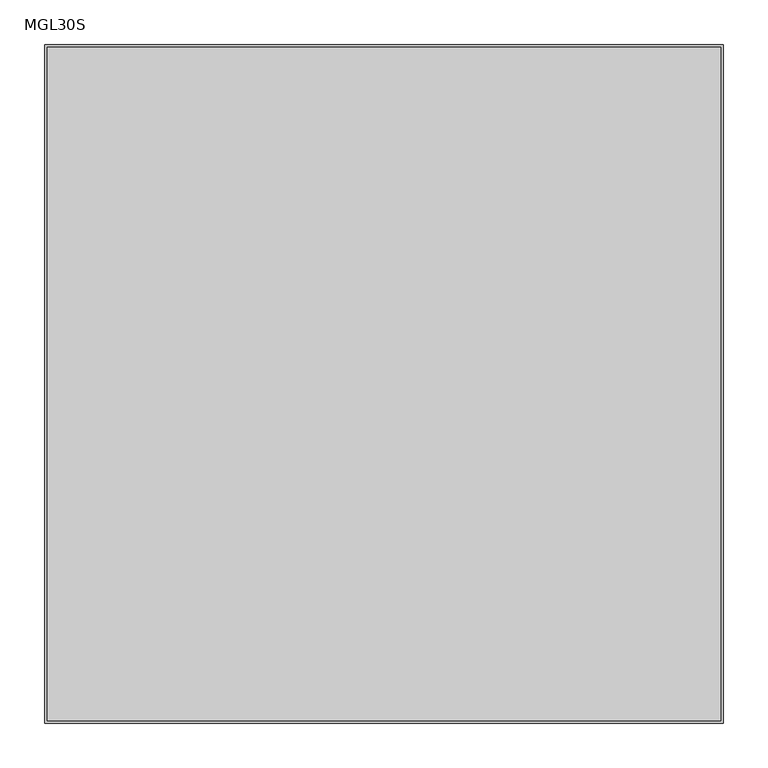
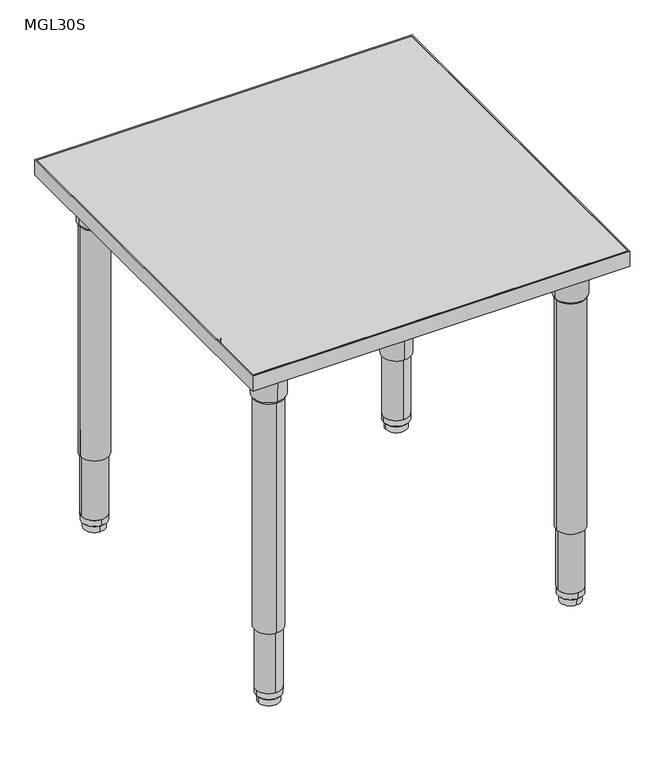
"""IFC4 building model written with IfcOpenShell, lengths in millimetres: furniture geometry, ERG-Mingle-Table-Square : MGL30S."""

from ifc_helpers import new_model, si_unit, point, frame, frame_2d, origin, place, context, project, spatial, polyline, circle_curve, trimmed, segment, composite_curve, outline, extrude, source, transform, mapped, element, save
from ifc_brep_helpers import plane_surface, cylinder_surface, revolved_surface, advanced_brep


def mgl30s_412d6b17(model_context):
    return source(origin(), model_context, "Body", "SolidModel", [
        advanced_brep(
        [(274.7646842, -304.8, 650.5933069), (334.8353158, -304.8, 650.5933069), (304.8, -304.8, 650.5933069), (272.656117, -304.8, 654.3580481), (336.943883, -304.8, 654.3580481), (271.7206351, -304.8, 707.7631458), (337.8793649, -304.8, 707.7631458), (268.271083, -304.8, 714.1198315), (341.328917, -304.8, 714.1198315), (268.271083, -304.8, 726.8198315), (341.328917, -304.8, 726.8198315), (304.8, -304.8, 726.8198315)],
        [
            (0, 1, circle_curve(frame((304.8, -304.8, 650.5933069), z_axis=(0.0, 0.0, -1.0), x_axis=(1.0, 0.0, 0.0)), 30.0353158)),
            (1, 2),
            (2, 0),
            (1, 0, circle_curve(frame((304.8, -304.8, 650.5933069), z_axis=(0.0, 0.0, -1.0), x_axis=(1.0, 0.0, 0.0)), 30.0353158)),
            (3, 4, circle_curve(frame((304.8, -304.8, 654.3580481), z_axis=(0.0, 0.0, -1.0), x_axis=(1.0, 0.0, 0.0)), 32.143883)),
            (4, 1),
            (0, 3),
            (4, 3, circle_curve(frame((304.8, -304.8, 654.3580481), z_axis=(0.0, 0.0, -1.0), x_axis=(1.0, 0.0, 0.0)), 32.143883)),
            (5, 6, circle_curve(frame((304.8, -304.8, 707.7631458), z_axis=(0.0, 0.0, -1.0), x_axis=(1.0, 0.0, 0.0)), 33.0793649)),
            (6, 4),
            (3, 5),
            (6, 5, circle_curve(frame((304.8, -304.8, 707.7631458), z_axis=(0.0, 0.0, -1.0), x_axis=(1.0, 0.0, 0.0)), 33.0793649)),
            (7, 8, circle_curve(frame((304.8, -304.8, 714.1198315), z_axis=(0.0, 0.0, -1.0), x_axis=(1.0, 0.0, 0.0)), 36.528917)),
            (8, 6),
            (5, 7),
            (8, 7, circle_curve(frame((304.8, -304.8, 714.1198315), z_axis=(0.0, 0.0, -1.0), x_axis=(1.0, 0.0, 0.0)), 36.528917)),
            (9, 10, circle_curve(frame((304.8, -304.8, 726.8198315), z_axis=(0.0, 0.0, -1.0), x_axis=(1.0, 0.0, 0.0)), 36.528917)),
            (10, 8),
            (7, 9),
            (10, 9, circle_curve(frame((304.8, -304.8, 726.8198315), z_axis=(0.0, 0.0, -1.0), x_axis=(1.0, 0.0, 0.0)), 36.528917)),
            (11, 10),
            (9, 11),
        ],
        [
            plane_surface(frame((304.8, -304.8, 650.5933069), z_axis=(0.0, 0.0, -1.0), x_axis=(1.0, 0.0, 0.0))),
            revolved_surface(polyline([(334.8353158, -304.8, 650.5933069), (336.943883, -304.8, 654.3580481)]), (304.8, -304.8, 726.8198315), (0.0, 0.0, 1.0)),
            revolved_surface(polyline([(336.943883, -304.8, 654.3580481), (337.8793649, -304.8, 707.7631458)]), (304.8, -304.8, 726.8198315), (0.0, 0.0, 1.0)),
            revolved_surface(polyline([(337.8793649, -304.8, 707.7631458), (341.328917, -304.8, 714.1198315)]), (304.8, -304.8, 726.8198315), (0.0, 0.0, 1.0)),
            cylinder_surface(frame((304.8, -304.8, 726.8198315), z_axis=(0.0, 0.0, 1.0), x_axis=(1.0, 0.0, 0.0)), 36.528917),
            plane_surface(frame((304.8, -304.8, 726.8198315), z_axis=(0.0, 0.0, 1.0), x_axis=(1.0, 0.0, 0.0))),
        ],
        [
            (0, [[1, 2, 3]]),
            (0, [[4, -3, -2]]),
            (1, [[5, 6, -1, 7]]),
            (1, [[8, -7, -4, -6]]),
            (2, [[9, 10, -5, 11]]),
            (2, [[12, -11, -8, -10]]),
            (3, [[13, 14, -9, 15]]),
            (3, [[16, -15, -12, -14]]),
            (4, [[17, 18, -13, 19]]),
            (4, [[20, -19, -16, -18]]),
            (5, [[21, -17, 22]]),
            (5, [[-22, -20, -21]]),
        ],
    ),
        extrude(outline(composite_curve([segment(polyline([(350.673768, -222.2223426), (350.673768, -335.9483754)]), True, "CONTINUOUS"), segment(trimmed(circle_curve(frame_2d((334.798768, -335.9483754)), 15.875), [point((350.673768, -335.9483754))], [point((334.798768, -351.8233754))], False, "CARTESIAN"), True, "CONTINUOUS"), segment(polyline([(334.798768, -351.8233754), (221.0864205, -351.8233754)]), True, "CONTINUOUS"), segment(trimmed(circle_curve(frame_2d((221.0864205, -339.1233754)), 12.7), [point((221.0864205, -351.8233754))], [point((208.4491923, -337.8622394))], False, "CARTESIAN"), True, "CONTINUOUS"), segment(trimmed(circle_curve(frame_2d((350.9486077, -352.0830117)), 143.2072406), [point((208.4491923, -337.8622394))], [point((336.7111525, -209.5852622))], False, "CARTESIAN"), True, "CONTINUOUS"), segment(trimmed(circle_curve(frame_2d((337.973768, -222.2223426)), 12.7), [point((336.7111525, -209.5852622))], [point((350.673768, -222.2223426))], False, "CARTESIAN"), True, "CONTINUOUS")], self_intersect=False)), frame((0.0, 0.0, 726.8198315), z_axis=(0.0, 0.0, 1.0), x_axis=(1.0, 0.0, 0.0)), (0.0, 0.0, 1.0), 3.4301685),
        extrude(outline(composite_curve([segment(trimmed(circle_curve(frame_2d((304.8, -304.8)), 28.575), [point((333.375, -304.8))], [point((276.225, -304.8))], False, "CARTESIAN"), True, "CONTINUOUS"), segment(trimmed(circle_curve(frame_2d((304.8, -304.8)), 28.575), [point((276.225, -304.8))], [point((333.375, -304.8))], False, "CARTESIAN"), True, "CONTINUOUS")], self_intersect=False)), frame((0.0, 0.0, 158.3876979), z_axis=(0.0, 0.0, 1.0), x_axis=(1.0, 0.0, 0.0)), (0.0, 0.0, 1.0), 495.4089866),
        extrude(outline(composite_curve([segment(trimmed(circle_curve(frame_2d((304.8, -304.8)), 25.4), [point((330.2, -304.8))], [point((279.4, -304.8))], False, "CARTESIAN"), True, "CONTINUOUS"), segment(trimmed(circle_curve(frame_2d((304.8, -304.8)), 25.4), [point((279.4, -304.8))], [point((330.2, -304.8))], False, "CARTESIAN"), True, "CONTINUOUS")], self_intersect=False)), frame((0.0, 0.0, 28.9580435), z_axis=(0.0, 0.0, 1.0), x_axis=(1.0, 0.0, 0.0)), (0.0, 0.0, 1.0), 176.7049119),
        advanced_brep(
        [(304.8, -279.5649896, 28.9580185), (304.8, -330.0350104, 28.9580185), (304.8, -304.8, 28.9580185), (304.8, -279.700761, 16.3032949), (304.8, -329.899239, 16.3032949), (304.8, -281.2160619, 14.7291007), (304.8, -328.3839381, 14.7291007), (304.8, -283.6591422, 14.7291007), (304.8, -325.9408578, 14.7291007), (304.8, -283.8521336, 0.0), (304.8, -325.7478664, 0.0), (304.8, -304.8, 0.0)],
        [
            (0, 1, circle_curve(frame((304.8, -304.8, 28.9580185), z_axis=(0.0, 0.0, 1.0), x_axis=(0.0, -1.0, 0.0)), 25.2350104)),
            (1, 2),
            (2, 0),
            (1, 0, circle_curve(frame((304.8, -304.8, 28.9580185), z_axis=(0.0, 0.0, 1.0), x_axis=(0.0, -1.0, 0.0)), 25.2350104)),
            (3, 4, circle_curve(frame((304.8, -304.8, 16.3032949), z_axis=(0.0, 0.0, 1.0), x_axis=(0.0, -1.0, 0.0)), 25.099239)),
            (4, 1),
            (0, 3),
            (4, 3, circle_curve(frame((304.8, -304.8, 16.3032949), z_axis=(0.0, 0.0, 1.0), x_axis=(0.0, -1.0, 0.0)), 25.099239)),
            (5, 6, circle_curve(frame((304.8, -304.8, 14.7291007), z_axis=(0.0, 0.0, 1.0), x_axis=(0.0, -1.0, 0.0)), 23.5839381)),
            (6, 4),
            (3, 5),
            (6, 5, circle_curve(frame((304.8, -304.8, 14.7291007), z_axis=(0.0, 0.0, 1.0), x_axis=(0.0, -1.0, 0.0)), 23.5839381)),
            (7, 8, circle_curve(frame((304.8, -304.8, 14.7291007), z_axis=(0.0, 0.0, 1.0), x_axis=(0.0, -1.0, 0.0)), 21.1408578)),
            (8, 6),
            (5, 7),
            (8, 7, circle_curve(frame((304.8, -304.8, 14.7291007), z_axis=(0.0, 0.0, 1.0), x_axis=(0.0, -1.0, 0.0)), 21.1408578)),
            (9, 10, circle_curve(frame((304.8, -304.8, 0.0), z_axis=(0.0, 0.0, 1.0), x_axis=(0.0, -1.0, 0.0)), 20.9478664)),
            (10, 8),
            (7, 9),
            (10, 9, circle_curve(frame((304.8, -304.8, 0.0), z_axis=(0.0, 0.0, 1.0), x_axis=(0.0, -1.0, 0.0)), 20.9478664)),
            (11, 10),
            (9, 11),
        ],
        [
            plane_surface(frame((304.8, -304.8, 28.9580185), z_axis=(0.0, 0.0, 1.0), x_axis=(0.0, -1.0, 0.0))),
            revolved_surface(polyline([(304.8, -330.0350104, 28.9580185), (304.8, -329.899239, 16.3032949)]), (304.8, -304.8, 0.0), (0.0, 0.0, -1.0)),
            revolved_surface(polyline([(304.8, -329.899239, 16.3032949), (304.8, -328.3839381, 14.7291007)]), (304.8, -304.8, 0.0), (0.0, 0.0, -1.0)),
            plane_surface(frame((304.8, -304.8, 14.7291007), z_axis=(0.0, 0.0, -1.0), x_axis=(0.0, -1.0, 0.0))),
            revolved_surface(polyline([(304.8, -325.9408578, 14.7291007), (304.8, -325.7478664, 0.0)]), (304.8, -304.8, 0.0), (0.0, 0.0, -1.0)),
            plane_surface(frame((304.8, -304.8, 0.0), z_axis=(0.0, 0.0, -1.0), x_axis=(0.0, -1.0, 0.0))),
        ],
        [
            (0, [[1, 2, 3]]),
            (0, [[4, -3, -2]]),
            (1, [[5, 6, -1, 7]]),
            (1, [[8, -7, -4, -6]]),
            (2, [[9, 10, -5, 11]]),
            (2, [[12, -11, -8, -10]]),
            (3, [[13, 14, -9, 15]]),
            (3, [[16, -15, -12, -14]]),
            (4, [[17, 18, -13, 19]]),
            (4, [[20, -19, -16, -18]]),
            (5, [[21, -17, 22]]),
            (5, [[-22, -20, -21]]),
        ],
    ),
        advanced_brep(
        [(-304.8, -274.7646842, 650.5933069), (-304.8, -334.8353158, 650.5933069), (-304.8, -304.8, 650.5933069), (-304.8, -272.656117, 654.3580481), (-304.8, -336.943883, 654.3580481), (-304.8, -271.7206351, 707.7631458), (-304.8, -337.8793649, 707.7631458), (-304.8, -268.271083, 714.1198315), (-304.8, -341.328917, 714.1198315), (-304.8, -268.271083, 726.8198315), (-304.8, -341.328917, 726.8198315), (-304.8, -304.8, 726.8198315)],
        [
            (0, 1, circle_curve(frame((-304.8, -304.8, 650.5933069), z_axis=(0.0, 0.0, -1.0), x_axis=(0.0, -1.0, 0.0)), 30.0353158)),
            (1, 2),
            (2, 0),
            (1, 0, circle_curve(frame((-304.8, -304.8, 650.5933069), z_axis=(0.0, 0.0, -1.0), x_axis=(0.0, -1.0, 0.0)), 30.0353158)),
            (3, 4, circle_curve(frame((-304.8, -304.8, 654.3580481), z_axis=(0.0, 0.0, -1.0), x_axis=(0.0, -1.0, 0.0)), 32.143883)),
            (4, 1),
            (0, 3),
            (4, 3, circle_curve(frame((-304.8, -304.8, 654.3580481), z_axis=(0.0, 0.0, -1.0), x_axis=(0.0, -1.0, 0.0)), 32.143883)),
            (5, 6, circle_curve(frame((-304.8, -304.8, 707.7631458), z_axis=(0.0, 0.0, -1.0), x_axis=(0.0, -1.0, 0.0)), 33.0793649)),
            (6, 4),
            (3, 5),
            (6, 5, circle_curve(frame((-304.8, -304.8, 707.7631458), z_axis=(0.0, 0.0, -1.0), x_axis=(0.0, -1.0, 0.0)), 33.0793649)),
            (7, 8, circle_curve(frame((-304.8, -304.8, 714.1198315), z_axis=(0.0, 0.0, -1.0), x_axis=(0.0, -1.0, 0.0)), 36.528917)),
            (8, 6),
            (5, 7),
            (8, 7, circle_curve(frame((-304.8, -304.8, 714.1198315), z_axis=(0.0, 0.0, -1.0), x_axis=(0.0, -1.0, 0.0)), 36.528917)),
            (9, 10, circle_curve(frame((-304.8, -304.8, 726.8198315), z_axis=(0.0, 0.0, -1.0), x_axis=(0.0, -1.0, 0.0)), 36.528917)),
            (10, 8),
            (7, 9),
            (10, 9, circle_curve(frame((-304.8, -304.8, 726.8198315), z_axis=(0.0, 0.0, -1.0), x_axis=(0.0, -1.0, 0.0)), 36.528917)),
            (11, 10),
            (9, 11),
        ],
        [
            plane_surface(frame((-304.8, -304.8, 650.5933069), z_axis=(0.0, 0.0, -1.0), x_axis=(0.0, -1.0, 0.0))),
            revolved_surface(polyline([(-304.8, -334.8353158, 650.5933069), (-304.8, -336.943883, 654.3580481)]), (-304.8, -304.8, 726.8198315), (0.0, 0.0, 1.0)),
            revolved_surface(polyline([(-304.8, -336.943883, 654.3580481), (-304.8, -337.8793649, 707.7631458)]), (-304.8, -304.8, 726.8198315), (0.0, 0.0, 1.0)),
            revolved_surface(polyline([(-304.8, -337.8793649, 707.7631458), (-304.8, -341.328917, 714.1198315)]), (-304.8, -304.8, 726.8198315), (0.0, 0.0, 1.0)),
            cylinder_surface(frame((-304.8, -304.8, 726.8198315), z_axis=(0.0, 0.0, 1.0), x_axis=(0.0, -1.0, 0.0)), 36.528917),
            plane_surface(frame((-304.8, -304.8, 726.8198315), z_axis=(0.0, 0.0, 1.0), x_axis=(0.0, -1.0, 0.0))),
        ],
        [
            (0, [[1, 2, 3]]),
            (0, [[4, -3, -2]]),
            (1, [[5, 6, -1, 7]]),
            (1, [[8, -7, -4, -6]]),
            (2, [[9, 10, -5, 11]]),
            (2, [[12, -11, -8, -10]]),
            (3, [[13, 14, -9, 15]]),
            (3, [[16, -15, -12, -14]]),
            (4, [[17, 18, -13, 19]]),
            (4, [[20, -19, -16, -18]]),
            (5, [[21, -17, 22]]),
            (5, [[-22, -20, -21]]),
        ],
    ),
        extrude(outline(composite_curve([segment(polyline([(-222.2223426, -350.673768), (-335.9483754, -350.673768)]), True, "CONTINUOUS"), segment(trimmed(circle_curve(frame_2d((-335.9483754, -334.798768)), 15.875), [point((-335.9483754, -350.673768))], [point((-351.8233754, -334.798768))], False, "CARTESIAN"), True, "CONTINUOUS"), segment(polyline([(-351.8233754, -334.798768), (-351.8233754, -221.0864205)]), True, "CONTINUOUS"), segment(trimmed(circle_curve(frame_2d((-339.1233754, -221.0864205)), 12.7), [point((-351.8233754, -221.0864205))], [point((-337.8622394, -208.4491923))], False, "CARTESIAN"), True, "CONTINUOUS"), segment(trimmed(circle_curve(frame_2d((-352.0830117, -350.9486077)), 143.2072406), [point((-337.8622394, -208.4491923))], [point((-209.5852622, -336.7111525))], False, "CARTESIAN"), True, "CONTINUOUS"), segment(trimmed(circle_curve(frame_2d((-222.2223426, -337.973768)), 12.7), [point((-209.5852622, -336.7111525))], [point((-222.2223426, -350.673768))], False, "CARTESIAN"), True, "CONTINUOUS")], self_intersect=False)), frame((0.0, 0.0, 726.8198315), z_axis=(0.0, 0.0, 1.0), x_axis=(1.0, 0.0, 0.0)), (0.0, 0.0, 1.0), 3.4301685),
        extrude(outline(composite_curve([segment(trimmed(circle_curve(frame_2d((-304.8, -304.8)), 28.575), [point((-304.8, -333.375))], [point((-304.8, -276.225))], False, "CARTESIAN"), True, "CONTINUOUS"), segment(trimmed(circle_curve(frame_2d((-304.8, -304.8)), 28.575), [point((-304.8, -276.225))], [point((-304.8, -333.375))], False, "CARTESIAN"), True, "CONTINUOUS")], self_intersect=False)), frame((0.0, 0.0, 158.3876979), z_axis=(0.0, 0.0, 1.0), x_axis=(1.0, 0.0, 0.0)), (0.0, 0.0, 1.0), 495.4089866),
        extrude(outline(composite_curve([segment(trimmed(circle_curve(frame_2d((-304.8, -304.8)), 25.4), [point((-304.8, -330.2))], [point((-304.8, -279.4))], False, "CARTESIAN"), True, "CONTINUOUS"), segment(trimmed(circle_curve(frame_2d((-304.8, -304.8)), 25.4), [point((-304.8, -279.4))], [point((-304.8, -330.2))], False, "CARTESIAN"), True, "CONTINUOUS")], self_intersect=False)), frame((0.0, 0.0, 28.9580435), z_axis=(0.0, 0.0, 1.0), x_axis=(1.0, 0.0, 0.0)), (0.0, 0.0, 1.0), 176.7049119),
        advanced_brep(
        [(-279.5649896, -304.8, 28.9580185), (-330.0350104, -304.8, 28.9580185), (-304.8, -304.8, 28.9580185), (-279.700761, -304.8, 16.3032949), (-329.899239, -304.8, 16.3032949), (-281.2160619, -304.8, 14.7291007), (-328.3839381, -304.8, 14.7291007), (-283.6591422, -304.8, 14.7291007), (-325.9408578, -304.8, 14.7291007), (-283.8521336, -304.8, 0.0), (-325.7478664, -304.8, 0.0), (-304.8, -304.8, 0.0)],
        [
            (0, 1, circle_curve(frame((-304.8, -304.8, 28.9580185), z_axis=(0.0, 0.0, 1.0), x_axis=(-1.0, 0.0, 0.0)), 25.2350104)),
            (1, 2),
            (2, 0),
            (1, 0, circle_curve(frame((-304.8, -304.8, 28.9580185), z_axis=(0.0, 0.0, 1.0), x_axis=(-1.0, 0.0, 0.0)), 25.2350104)),
            (3, 4, circle_curve(frame((-304.8, -304.8, 16.3032949), z_axis=(0.0, 0.0, 1.0), x_axis=(-1.0, 0.0, 0.0)), 25.099239)),
            (4, 1),
            (0, 3),
            (4, 3, circle_curve(frame((-304.8, -304.8, 16.3032949), z_axis=(0.0, 0.0, 1.0), x_axis=(-1.0, 0.0, 0.0)), 25.099239)),
            (5, 6, circle_curve(frame((-304.8, -304.8, 14.7291007), z_axis=(0.0, 0.0, 1.0), x_axis=(-1.0, 0.0, 0.0)), 23.5839381)),
            (6, 4),
            (3, 5),
            (6, 5, circle_curve(frame((-304.8, -304.8, 14.7291007), z_axis=(0.0, 0.0, 1.0), x_axis=(-1.0, 0.0, 0.0)), 23.5839381)),
            (7, 8, circle_curve(frame((-304.8, -304.8, 14.7291007), z_axis=(0.0, 0.0, 1.0), x_axis=(-1.0, 0.0, 0.0)), 21.1408578)),
            (8, 6),
            (5, 7),
            (8, 7, circle_curve(frame((-304.8, -304.8, 14.7291007), z_axis=(0.0, 0.0, 1.0), x_axis=(-1.0, 0.0, 0.0)), 21.1408578)),
            (9, 10, circle_curve(frame((-304.8, -304.8, 0.0), z_axis=(0.0, 0.0, 1.0), x_axis=(-1.0, 0.0, 0.0)), 20.9478664)),
            (10, 8),
            (7, 9),
            (10, 9, circle_curve(frame((-304.8, -304.8, 0.0), z_axis=(0.0, 0.0, 1.0), x_axis=(-1.0, 0.0, 0.0)), 20.9478664)),
            (11, 10),
            (9, 11),
        ],
        [
            plane_surface(frame((-304.8, -304.8, 28.9580185), z_axis=(0.0, 0.0, 1.0), x_axis=(-1.0, 0.0, 0.0))),
            revolved_surface(polyline([(-330.0350104, -304.8, 28.9580185), (-329.899239, -304.8, 16.3032949)]), (-304.8, -304.8, 0.0), (0.0, 0.0, -1.0)),
            revolved_surface(polyline([(-329.899239, -304.8, 16.3032949), (-328.3839381, -304.8, 14.7291007)]), (-304.8, -304.8, 0.0), (0.0, 0.0, -1.0)),
            plane_surface(frame((-304.8, -304.8, 14.7291007), z_axis=(0.0, 0.0, -1.0), x_axis=(-1.0, 0.0, 0.0))),
            revolved_surface(polyline([(-325.9408578, -304.8, 14.7291007), (-325.7478664, -304.8, 0.0)]), (-304.8, -304.8, 0.0), (0.0, 0.0, -1.0)),
            plane_surface(frame((-304.8, -304.8, 0.0), z_axis=(0.0, 0.0, -1.0), x_axis=(-1.0, 0.0, 0.0))),
        ],
        [
            (0, [[1, 2, 3]]),
            (0, [[4, -3, -2]]),
            (1, [[5, 6, -1, 7]]),
            (1, [[8, -7, -4, -6]]),
            (2, [[9, 10, -5, 11]]),
            (2, [[12, -11, -8, -10]]),
            (3, [[13, 14, -9, 15]]),
            (3, [[16, -15, -12, -14]]),
            (4, [[17, 18, -13, 19]]),
            (4, [[20, -19, -16, -18]]),
            (5, [[21, -17, 22]]),
            (5, [[-22, -20, -21]]),
        ],
    ),
        advanced_brep(
        [(304.8, 274.7646842, 650.5933069), (304.8, 334.8353158, 650.5933069), (304.8, 304.8, 650.5933069), (304.8, 272.656117, 654.3580481), (304.8, 336.943883, 654.3580481), (304.8, 271.7206351, 707.7631458), (304.8, 337.8793649, 707.7631458), (304.8, 268.271083, 714.1198315), (304.8, 341.328917, 714.1198315), (304.8, 268.271083, 726.8198315), (304.8, 341.328917, 726.8198315), (304.8, 304.8, 726.8198315)],
        [
            (0, 1, circle_curve(frame((304.8, 304.8, 650.5933069), z_axis=(0.0, 0.0, -1.0), x_axis=(0.0, 1.0, 0.0)), 30.0353158)),
            (1, 2),
            (2, 0),
            (1, 0, circle_curve(frame((304.8, 304.8, 650.5933069), z_axis=(0.0, 0.0, -1.0), x_axis=(0.0, 1.0, 0.0)), 30.0353158)),
            (3, 4, circle_curve(frame((304.8, 304.8, 654.3580481), z_axis=(0.0, 0.0, -1.0), x_axis=(0.0, 1.0, 0.0)), 32.143883)),
            (4, 1),
            (0, 3),
            (4, 3, circle_curve(frame((304.8, 304.8, 654.3580481), z_axis=(0.0, 0.0, -1.0), x_axis=(0.0, 1.0, 0.0)), 32.143883)),
            (5, 6, circle_curve(frame((304.8, 304.8, 707.7631458), z_axis=(0.0, 0.0, -1.0), x_axis=(0.0, 1.0, 0.0)), 33.0793649)),
            (6, 4),
            (3, 5),
            (6, 5, circle_curve(frame((304.8, 304.8, 707.7631458), z_axis=(0.0, 0.0, -1.0), x_axis=(0.0, 1.0, 0.0)), 33.0793649)),
            (7, 8, circle_curve(frame((304.8, 304.8, 714.1198315), z_axis=(0.0, 0.0, -1.0), x_axis=(0.0, 1.0, 0.0)), 36.528917)),
            (8, 6),
            (5, 7),
            (8, 7, circle_curve(frame((304.8, 304.8, 714.1198315), z_axis=(0.0, 0.0, -1.0), x_axis=(0.0, 1.0, 0.0)), 36.528917)),
            (9, 10, circle_curve(frame((304.8, 304.8, 726.8198315), z_axis=(0.0, 0.0, -1.0), x_axis=(0.0, 1.0, 0.0)), 36.528917)),
            (10, 8),
            (7, 9),
            (10, 9, circle_curve(frame((304.8, 304.8, 726.8198315), z_axis=(0.0, 0.0, -1.0), x_axis=(0.0, 1.0, 0.0)), 36.528917)),
            (11, 10),
            (9, 11),
        ],
        [
            plane_surface(frame((304.8, 304.8, 650.5933069), z_axis=(0.0, 0.0, -1.0), x_axis=(0.0, 1.0, 0.0))),
            revolved_surface(polyline([(304.8, 334.8353158, 650.5933069), (304.8, 336.943883, 654.3580481)]), (304.8, 304.8, 726.8198315), (0.0, 0.0, 1.0)),
            revolved_surface(polyline([(304.8, 336.943883, 654.3580481), (304.8, 337.8793649, 707.7631458)]), (304.8, 304.8, 726.8198315), (0.0, 0.0, 1.0)),
            revolved_surface(polyline([(304.8, 337.8793649, 707.7631458), (304.8, 341.328917, 714.1198315)]), (304.8, 304.8, 726.8198315), (0.0, 0.0, 1.0)),
            cylinder_surface(frame((304.8, 304.8, 726.8198315), z_axis=(0.0, 0.0, 1.0), x_axis=(0.0, 1.0, 0.0)), 36.528917),
            plane_surface(frame((304.8, 304.8, 726.8198315), z_axis=(0.0, 0.0, 1.0), x_axis=(0.0, 1.0, 0.0))),
        ],
        [
            (0, [[1, 2, 3]]),
            (0, [[4, -3, -2]]),
            (1, [[5, 6, -1, 7]]),
            (1, [[8, -7, -4, -6]]),
            (2, [[9, 10, -5, 11]]),
            (2, [[12, -11, -8, -10]]),
            (3, [[13, 14, -9, 15]]),
            (3, [[16, -15, -12, -14]]),
            (4, [[17, 18, -13, 19]]),
            (4, [[20, -19, -16, -18]]),
            (5, [[21, -17, 22]]),
            (5, [[-22, -20, -21]]),
        ],
    ),
        extrude(outline(composite_curve([segment(polyline([(222.2223426, 350.673768), (335.9483754, 350.673768)]), True, "CONTINUOUS"), segment(trimmed(circle_curve(frame_2d((335.9483754, 334.798768)), 15.875), [point((335.9483754, 350.673768))], [point((351.8233754, 334.798768))], False, "CARTESIAN"), True, "CONTINUOUS"), segment(polyline([(351.8233754, 334.798768), (351.8233754, 221.0864205)]), True, "CONTINUOUS"), segment(trimmed(circle_curve(frame_2d((339.1233754, 221.0864205)), 12.7), [point((351.8233754, 221.0864205))], [point((337.8622394, 208.4491923))], False, "CARTESIAN"), True, "CONTINUOUS"), segment(trimmed(circle_curve(frame_2d((352.0830117, 350.9486077)), 143.2072406), [point((337.8622394, 208.4491923))], [point((209.5852622, 336.7111525))], False, "CARTESIAN"), True, "CONTINUOUS"), segment(trimmed(circle_curve(frame_2d((222.2223426, 337.973768)), 12.7), [point((209.5852622, 336.7111525))], [point((222.2223426, 350.673768))], False, "CARTESIAN"), True, "CONTINUOUS")], self_intersect=False)), frame((0.0, 0.0, 726.8198315), z_axis=(0.0, 0.0, 1.0), x_axis=(1.0, 0.0, 0.0)), (0.0, 0.0, 1.0), 3.4301685),
        extrude(outline(composite_curve([segment(trimmed(circle_curve(frame_2d((304.8, 304.8)), 28.575), [point((304.8, 333.375))], [point((304.8, 276.225))], False, "CARTESIAN"), True, "CONTINUOUS"), segment(trimmed(circle_curve(frame_2d((304.8, 304.8)), 28.575), [point((304.8, 276.225))], [point((304.8, 333.375))], False, "CARTESIAN"), True, "CONTINUOUS")], self_intersect=False)), frame((0.0, 0.0, 158.3876979), z_axis=(0.0, 0.0, 1.0), x_axis=(1.0, 0.0, 0.0)), (0.0, 0.0, 1.0), 495.4089866),
        extrude(outline(composite_curve([segment(trimmed(circle_curve(frame_2d((304.8, 304.8)), 25.4), [point((304.8, 330.2))], [point((304.8, 279.4))], False, "CARTESIAN"), True, "CONTINUOUS"), segment(trimmed(circle_curve(frame_2d((304.8, 304.8)), 25.4), [point((304.8, 279.4))], [point((304.8, 330.2))], False, "CARTESIAN"), True, "CONTINUOUS")], self_intersect=False)), frame((0.0, 0.0, 28.9580435), z_axis=(0.0, 0.0, 1.0), x_axis=(1.0, 0.0, 0.0)), (0.0, 0.0, 1.0), 176.7049119),
        advanced_brep(
        [(279.5649896, 304.8, 28.9580185), (330.0350104, 304.8, 28.9580185), (304.8, 304.8, 28.9580185), (279.700761, 304.8, 16.3032949), (329.899239, 304.8, 16.3032949), (281.2160619, 304.8, 14.7291007), (328.3839381, 304.8, 14.7291007), (283.6591422, 304.8, 14.7291007), (325.9408578, 304.8, 14.7291007), (283.8521336, 304.8, 0.0), (325.7478664, 304.8, 0.0), (304.8, 304.8, 0.0)],
        [
            (0, 1, circle_curve(frame((304.8, 304.8, 28.9580185), z_axis=(0.0, 0.0, 1.0), x_axis=(1.0, 0.0, 0.0)), 25.2350104)),
            (1, 2),
            (2, 0),
            (1, 0, circle_curve(frame((304.8, 304.8, 28.9580185), z_axis=(0.0, 0.0, 1.0), x_axis=(1.0, 0.0, 0.0)), 25.2350104)),
            (3, 4, circle_curve(frame((304.8, 304.8, 16.3032949), z_axis=(0.0, 0.0, 1.0), x_axis=(1.0, 0.0, 0.0)), 25.099239)),
            (4, 1),
            (0, 3),
            (4, 3, circle_curve(frame((304.8, 304.8, 16.3032949), z_axis=(0.0, 0.0, 1.0), x_axis=(1.0, 0.0, 0.0)), 25.099239)),
            (5, 6, circle_curve(frame((304.8, 304.8, 14.7291007), z_axis=(0.0, 0.0, 1.0), x_axis=(1.0, 0.0, 0.0)), 23.5839381)),
            (6, 4),
            (3, 5),
            (6, 5, circle_curve(frame((304.8, 304.8, 14.7291007), z_axis=(0.0, 0.0, 1.0), x_axis=(1.0, 0.0, 0.0)), 23.5839381)),
            (7, 8, circle_curve(frame((304.8, 304.8, 14.7291007), z_axis=(0.0, 0.0, 1.0), x_axis=(1.0, 0.0, 0.0)), 21.1408578)),
            (8, 6),
            (5, 7),
            (8, 7, circle_curve(frame((304.8, 304.8, 14.7291007), z_axis=(0.0, 0.0, 1.0), x_axis=(1.0, 0.0, 0.0)), 21.1408578)),
            (9, 10, circle_curve(frame((304.8, 304.8, 0.0), z_axis=(0.0, 0.0, 1.0), x_axis=(1.0, 0.0, 0.0)), 20.9478664)),
            (10, 8),
            (7, 9),
            (10, 9, circle_curve(frame((304.8, 304.8, 0.0), z_axis=(0.0, 0.0, 1.0), x_axis=(1.0, 0.0, 0.0)), 20.9478664)),
            (11, 10),
            (9, 11),
        ],
        [
            plane_surface(frame((304.8, 304.8, 28.9580185), z_axis=(0.0, 0.0, 1.0), x_axis=(1.0, 0.0, 0.0))),
            revolved_surface(polyline([(330.0350104, 304.8, 28.9580185), (329.899239, 304.8, 16.3032949)]), (304.8, 304.8, 0.0), (0.0, 0.0, -1.0)),
            revolved_surface(polyline([(329.899239, 304.8, 16.3032949), (328.3839381, 304.8, 14.7291007)]), (304.8, 304.8, 0.0), (0.0, 0.0, -1.0)),
            plane_surface(frame((304.8, 304.8, 14.7291007), z_axis=(0.0, 0.0, -1.0), x_axis=(1.0, 0.0, 0.0))),
            revolved_surface(polyline([(325.9408578, 304.8, 14.7291007), (325.7478664, 304.8, 0.0)]), (304.8, 304.8, 0.0), (0.0, 0.0, -1.0)),
            plane_surface(frame((304.8, 304.8, 0.0), z_axis=(0.0, 0.0, -1.0), x_axis=(1.0, 0.0, 0.0))),
        ],
        [
            (0, [[1, 2, 3]]),
            (0, [[4, -3, -2]]),
            (1, [[5, 6, -1, 7]]),
            (1, [[8, -7, -4, -6]]),
            (2, [[9, 10, -5, 11]]),
            (2, [[12, -11, -8, -10]]),
            (3, [[13, 14, -9, 15]]),
            (3, [[16, -15, -12, -14]]),
            (4, [[17, 18, -13, 19]]),
            (4, [[20, -19, -16, -18]]),
            (5, [[21, -17, 22]]),
            (5, [[-22, -20, -21]]),
        ],
    ),
        advanced_brep(
        [(-274.7646842, 304.8, 650.5933069), (-334.8353158, 304.8, 650.5933069), (-304.8, 304.8, 650.5933069), (-272.656117, 304.8, 654.3580481), (-336.943883, 304.8, 654.3580481), (-271.7206351, 304.8, 707.7631458), (-337.8793649, 304.8, 707.7631458), (-268.271083, 304.8, 714.1198315), (-341.328917, 304.8, 714.1198315), (-268.271083, 304.8, 726.8198315), (-341.328917, 304.8, 726.8198315), (-304.8, 304.8, 726.8198315)],
        [
            (0, 1, circle_curve(frame((-304.8, 304.8, 650.5933069), z_axis=(0.0, 0.0, -1.0), x_axis=(-1.0, 0.0, 0.0)), 30.0353158)),
            (1, 2),
            (2, 0),
            (1, 0, circle_curve(frame((-304.8, 304.8, 650.5933069), z_axis=(0.0, 0.0, -1.0), x_axis=(-1.0, 0.0, 0.0)), 30.0353158)),
            (3, 4, circle_curve(frame((-304.8, 304.8, 654.3580481), z_axis=(0.0, 0.0, -1.0), x_axis=(-1.0, 0.0, 0.0)), 32.143883)),
            (4, 1),
            (0, 3),
            (4, 3, circle_curve(frame((-304.8, 304.8, 654.3580481), z_axis=(0.0, 0.0, -1.0), x_axis=(-1.0, 0.0, 0.0)), 32.143883)),
            (5, 6, circle_curve(frame((-304.8, 304.8, 707.7631458), z_axis=(0.0, 0.0, -1.0), x_axis=(-1.0, 0.0, 0.0)), 33.0793649)),
            (6, 4),
            (3, 5),
            (6, 5, circle_curve(frame((-304.8, 304.8, 707.7631458), z_axis=(0.0, 0.0, -1.0), x_axis=(-1.0, 0.0, 0.0)), 33.0793649)),
            (7, 8, circle_curve(frame((-304.8, 304.8, 714.1198315), z_axis=(0.0, 0.0, -1.0), x_axis=(-1.0, 0.0, 0.0)), 36.528917)),
            (8, 6),
            (5, 7),
            (8, 7, circle_curve(frame((-304.8, 304.8, 714.1198315), z_axis=(0.0, 0.0, -1.0), x_axis=(-1.0, 0.0, 0.0)), 36.528917)),
            (9, 10, circle_curve(frame((-304.8, 304.8, 726.8198315), z_axis=(0.0, 0.0, -1.0), x_axis=(-1.0, 0.0, 0.0)), 36.528917)),
            (10, 8),
            (7, 9),
            (10, 9, circle_curve(frame((-304.8, 304.8, 726.8198315), z_axis=(0.0, 0.0, -1.0), x_axis=(-1.0, 0.0, 0.0)), 36.528917)),
            (11, 10),
            (9, 11),
        ],
        [
            plane_surface(frame((-304.8, 304.8, 650.5933069), z_axis=(0.0, 0.0, -1.0), x_axis=(-1.0, 0.0, 0.0))),
            revolved_surface(polyline([(-334.8353158, 304.8, 650.5933069), (-336.943883, 304.8, 654.3580481)]), (-304.8, 304.8, 726.8198315), (0.0, 0.0, 1.0)),
            revolved_surface(polyline([(-336.943883, 304.8, 654.3580481), (-337.8793649, 304.8, 707.7631458)]), (-304.8, 304.8, 726.8198315), (0.0, 0.0, 1.0)),
            revolved_surface(polyline([(-337.8793649, 304.8, 707.7631458), (-341.328917, 304.8, 714.1198315)]), (-304.8, 304.8, 726.8198315), (0.0, 0.0, 1.0)),
            cylinder_surface(frame((-304.8, 304.8, 726.8198315), z_axis=(0.0, 0.0, 1.0), x_axis=(-1.0, 0.0, 0.0)), 36.528917),
            plane_surface(frame((-304.8, 304.8, 726.8198315), z_axis=(0.0, 0.0, 1.0), x_axis=(-1.0, 0.0, 0.0))),
        ],
        [
            (0, [[1, 2, 3]]),
            (0, [[4, -3, -2]]),
            (1, [[5, 6, -1, 7]]),
            (1, [[8, -7, -4, -6]]),
            (2, [[9, 10, -5, 11]]),
            (2, [[12, -11, -8, -10]]),
            (3, [[13, 14, -9, 15]]),
            (3, [[16, -15, -12, -14]]),
            (4, [[17, 18, -13, 19]]),
            (4, [[20, -19, -16, -18]]),
            (5, [[21, -17, 22]]),
            (5, [[-22, -20, -21]]),
        ],
    ),
        extrude(outline(composite_curve([segment(polyline([(-350.673768, 222.2223426), (-350.673768, 335.9483754)]), True, "CONTINUOUS"), segment(trimmed(circle_curve(frame_2d((-334.798768, 335.9483754)), 15.875), [point((-350.673768, 335.9483754))], [point((-334.798768, 351.8233754))], False, "CARTESIAN"), True, "CONTINUOUS"), segment(polyline([(-334.798768, 351.8233754), (-221.0864205, 351.8233754)]), True, "CONTINUOUS"), segment(trimmed(circle_curve(frame_2d((-221.0864205, 339.1233754)), 12.7), [point((-221.0864205, 351.8233754))], [point((-208.4491923, 337.8622394))], False, "CARTESIAN"), True, "CONTINUOUS"), segment(trimmed(circle_curve(frame_2d((-350.9486077, 352.0830117)), 143.2072406), [point((-208.4491923, 337.8622394))], [point((-336.7111525, 209.5852622))], False, "CARTESIAN"), True, "CONTINUOUS"), segment(trimmed(circle_curve(frame_2d((-337.973768, 222.2223426)), 12.7), [point((-336.7111525, 209.5852622))], [point((-350.673768, 222.2223426))], False, "CARTESIAN"), True, "CONTINUOUS")], self_intersect=False)), frame((0.0, 0.0, 726.8198315), z_axis=(0.0, 0.0, 1.0), x_axis=(1.0, 0.0, 0.0)), (0.0, 0.0, 1.0), 3.4301685),
        extrude(outline(composite_curve([segment(trimmed(circle_curve(frame_2d((-304.8, 304.8)), 28.575), [point((-333.375, 304.8))], [point((-276.225, 304.8))], False, "CARTESIAN"), True, "CONTINUOUS"), segment(trimmed(circle_curve(frame_2d((-304.8, 304.8)), 28.575), [point((-276.225, 304.8))], [point((-333.375, 304.8))], False, "CARTESIAN"), True, "CONTINUOUS")], self_intersect=False)), frame((0.0, 0.0, 158.3876979), z_axis=(0.0, 0.0, 1.0), x_axis=(1.0, 0.0, 0.0)), (0.0, 0.0, 1.0), 495.4089866),
        extrude(outline(composite_curve([segment(trimmed(circle_curve(frame_2d((-304.8, 304.8)), 25.4), [point((-330.2, 304.8))], [point((-279.4, 304.8))], False, "CARTESIAN"), True, "CONTINUOUS"), segment(trimmed(circle_curve(frame_2d((-304.8, 304.8)), 25.4), [point((-279.4, 304.8))], [point((-330.2, 304.8))], False, "CARTESIAN"), True, "CONTINUOUS")], self_intersect=False)), frame((0.0, 0.0, 28.9580435), z_axis=(0.0, 0.0, 1.0), x_axis=(1.0, 0.0, 0.0)), (0.0, 0.0, 1.0), 176.7049119),
        advanced_brep(
        [(-304.8, 279.5649896, 28.9580185), (-304.8, 330.0350104, 28.9580185), (-304.8, 304.8, 28.9580185), (-304.8, 279.700761, 16.3032949), (-304.8, 329.899239, 16.3032949), (-304.8, 281.2160619, 14.7291007), (-304.8, 328.3839381, 14.7291007), (-304.8, 283.6591422, 14.7291007), (-304.8, 325.9408578, 14.7291007), (-304.8, 283.8521336, 0.0), (-304.8, 325.7478664, 0.0), (-304.8, 304.8, 0.0)],
        [
            (0, 1, circle_curve(frame((-304.8, 304.8, 28.9580185), z_axis=(0.0, 0.0, 1.0), x_axis=(0.0, 1.0, 0.0)), 25.2350104)),
            (1, 2),
            (2, 0),
            (1, 0, circle_curve(frame((-304.8, 304.8, 28.9580185), z_axis=(0.0, 0.0, 1.0), x_axis=(0.0, 1.0, 0.0)), 25.2350104)),
            (3, 4, circle_curve(frame((-304.8, 304.8, 16.3032949), z_axis=(0.0, 0.0, 1.0), x_axis=(0.0, 1.0, 0.0)), 25.099239)),
            (4, 1),
            (0, 3),
            (4, 3, circle_curve(frame((-304.8, 304.8, 16.3032949), z_axis=(0.0, 0.0, 1.0), x_axis=(0.0, 1.0, 0.0)), 25.099239)),
            (5, 6, circle_curve(frame((-304.8, 304.8, 14.7291007), z_axis=(0.0, 0.0, 1.0), x_axis=(0.0, 1.0, 0.0)), 23.5839381)),
            (6, 4),
            (3, 5),
            (6, 5, circle_curve(frame((-304.8, 304.8, 14.7291007), z_axis=(0.0, 0.0, 1.0), x_axis=(0.0, 1.0, 0.0)), 23.5839381)),
            (7, 8, circle_curve(frame((-304.8, 304.8, 14.7291007), z_axis=(0.0, 0.0, 1.0), x_axis=(0.0, 1.0, 0.0)), 21.1408578)),
            (8, 6),
            (5, 7),
            (8, 7, circle_curve(frame((-304.8, 304.8, 14.7291007), z_axis=(0.0, 0.0, 1.0), x_axis=(0.0, 1.0, 0.0)), 21.1408578)),
            (9, 10, circle_curve(frame((-304.8, 304.8, 0.0), z_axis=(0.0, 0.0, 1.0), x_axis=(0.0, 1.0, 0.0)), 20.9478664)),
            (10, 8),
            (7, 9),
            (10, 9, circle_curve(frame((-304.8, 304.8, 0.0), z_axis=(0.0, 0.0, 1.0), x_axis=(0.0, 1.0, 0.0)), 20.9478664)),
            (11, 10),
            (9, 11),
        ],
        [
            plane_surface(frame((-304.8, 304.8, 28.9580185), z_axis=(0.0, 0.0, 1.0), x_axis=(0.0, 1.0, 0.0))),
            revolved_surface(polyline([(-304.8, 330.0350104, 28.9580185), (-304.8, 329.899239, 16.3032949)]), (-304.8, 304.8, 0.0), (0.0, 0.0, -1.0)),
            revolved_surface(polyline([(-304.8, 329.899239, 16.3032949), (-304.8, 328.3839381, 14.7291007)]), (-304.8, 304.8, 0.0), (0.0, 0.0, -1.0)),
            plane_surface(frame((-304.8, 304.8, 14.7291007), z_axis=(0.0, 0.0, -1.0), x_axis=(0.0, 1.0, 0.0))),
            revolved_surface(polyline([(-304.8, 325.9408578, 14.7291007), (-304.8, 325.7478664, 0.0)]), (-304.8, 304.8, 0.0), (0.0, 0.0, -1.0)),
            plane_surface(frame((-304.8, 304.8, 0.0), z_axis=(0.0, 0.0, -1.0), x_axis=(0.0, 1.0, 0.0))),
        ],
        [
            (0, [[1, 2, 3]]),
            (0, [[4, -3, -2]]),
            (1, [[5, 6, -1, 7]]),
            (1, [[8, -7, -4, -6]]),
            (2, [[9, 10, -5, 11]]),
            (2, [[12, -11, -8, -10]]),
            (3, [[13, 14, -9, 15]]),
            (3, [[16, -15, -12, -14]]),
            (4, [[17, 18, -13, 19]]),
            (4, [[20, -19, -16, -18]]),
            (5, [[21, -17, 22]]),
            (5, [[-22, -20, -21]]),
        ],
    ),
        extrude(outline(polyline([(-377.825, 377.825), (377.825, 377.825), (377.825, -377.825), (-377.825, -377.825), (-377.825, 377.825)])), frame((0.0, 0.0, 730.25), z_axis=(0.0, 0.0, 1.0), x_axis=(1.0, 0.0, 0.0)), (0.0, 0.0, 1.0), 31.75),
        extrude(outline(polyline([(381.0, -381.0), (-381.0, -381.0), (-381.0, 381.0), (381.0, 381.0), (381.0, -381.0)]), holes=[polyline([(377.825, 377.825), (-377.825, 377.825), (-377.825, -377.825), (377.825, -377.825), (377.825, 377.825)])]), frame((0.0, 0.0, 730.25), z_axis=(0.0, 0.0, 1.0), x_axis=(1.0, 0.0, 0.0)), (0.0, 0.0, 1.0), 31.75),
    ])


if __name__ == "__main__":
    model = new_model("IFC4")
    model_context = context("Model", 3, world=origin())
    ifc_project = project(units=[si_unit("LENGTHUNIT", "METRE", prefix="MILLI")], contexts=[model_context])
    site = spatial("IfcSite", under=ifc_project)
    building = spatial("IfcBuilding", under=site)
    placement = place(None, origin())
    mgl30s_shape = mgl30s_412d6b17(model_context)
    element("IfcFurniture", 1, ObjectType="ERG-Mingle-Table-Square : MGL30S", at=placement, inside=building, context=model_context, shape_type="MappedRepresentation", body=[
        mapped(mgl30s_shape, transform((0.0, 0.0, 0.0), x_axis=(1.0, 0.0, 0.0), y_axis=(0.0, 1.0, 0.0), z_axis=(0.0, 0.0, 1.0))),
    ])
    save(model, "model.ifc")
